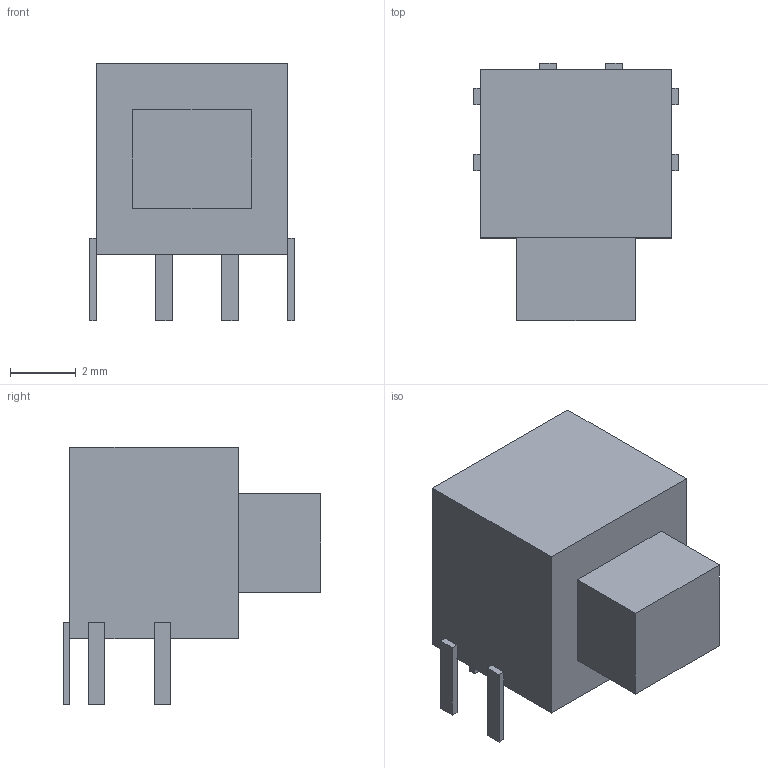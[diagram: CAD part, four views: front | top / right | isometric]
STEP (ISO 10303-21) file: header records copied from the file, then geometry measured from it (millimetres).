
FILE_DESCRIPTION(('FreeCAD Model'),'2;1');
FILE_NAME('Open CASCADE Shape Model','2026-05-06T18:40:00',(''),(''), 'Open CASCADE STEP processor 7.8','FreeCAD','Unknown');
FILE_SCHEMA(('AUTOMOTIVE_DESIGN { 1 0 10303 214 1 1 1 1 }'));
Length unit declared in the file: millimetre
Products named in the file (8): Reset; Switch Body; PB; BodyPin; BodyPin002; BodyPin004; BodyPin005; BodyPin006
Assembly tree (8 placements, depth 2):
  Reset
    Switch Body
    PB
    BodyPin
    BodyPin002  x2
    BodyPin004
    BodyPin005
    BodyPin006
Bounding box: 6.2 x 7.8 x 7.8 mm (x, y, z)
Volume: 200.1 mm3; surface area: 262.4 mm2
Topology: 8 solids, 8 shells, 48 faces, 96 edges, 64 vertices
Faces by surface type: plane 48
Entity records: 1298 total; most frequent: CARTESIAN_POINT 191, DIRECTION 186, ORIENTED_EDGE 168, EDGE_CURVE 84, LINE 84, VECTOR 84, VERTEX_POINT 56, AXIS2_PLACEMENT_3D 51
